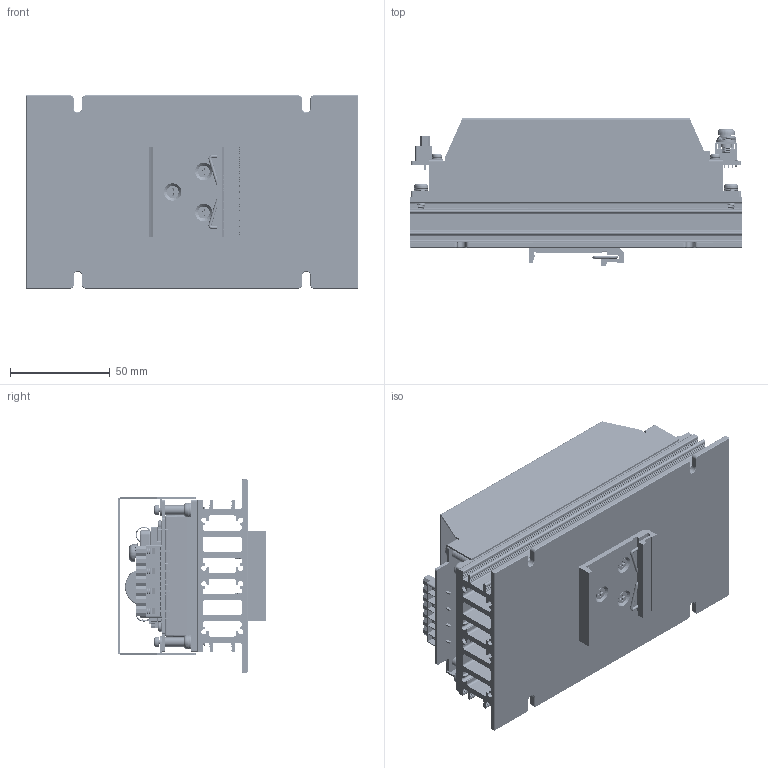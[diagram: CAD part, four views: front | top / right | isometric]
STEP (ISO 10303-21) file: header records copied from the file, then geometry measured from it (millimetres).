
FILE_DESCRIPTION (( 'STEP AP203' ), '1' );
FILE_NAME ('CHB300-300S CMFD HD 12V,24V,28V,48V 2024.04.26.STEP', '2024-04-26T09:15:18', ( '' ), ( '' ), 'SwSTEP 2.0', 'SolidWorks 2020', '' );
FILE_SCHEMA (( 'CONFIG_CONTROL_DESIGN' ));
Products named in the file (1): CHB300-300S CMFD HD 12V,24V,28V,48V 2024.04.26
Bounding box: 166 x 74.1 x 96.52 mm (x, y, z)
Volume: 311907.2 mm3; surface area: 218340.2 mm2
Topology: 13 solids, 43 shells, 3308 faces, 11436 edges, 7509 vertices
Faces by surface type: plane 1788, cylinder 913, bspline 330, cone 150, torus 88, sphere 39
Full cylindrical faces by diameter (mm): 0.7 x16, 0.78 x2, 0.8 x4, 1 x13, 1.2 x5, 1.5 x8, 2 x5, 2.2 x8, 2.9 x8, 3 x7, 3.2 x10, 3.239 x3, 3.25 x1, 3.264 x1, 3.8 x4, 3.85 x3, 3.9 x27, 4 x5, 4.2 x7, 4.3 x4, 4.45 x4, 4.5 x4, 4.6 x4, 4.7 x8, 5 x12, 5.3 x2, 5.5 x2, 6 x3, 7 x4, 10 x2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
Entity records: 263911 total; most frequent: CARTESIAN_POINT 175400, ORIENTED_EDGE 21654, DIRECTION 14524, EDGE_CURVE 10827, VERTEX_POINT 7292, LINE 5046, VECTOR 5046, AXIS2_PLACEMENT_3D 4739
